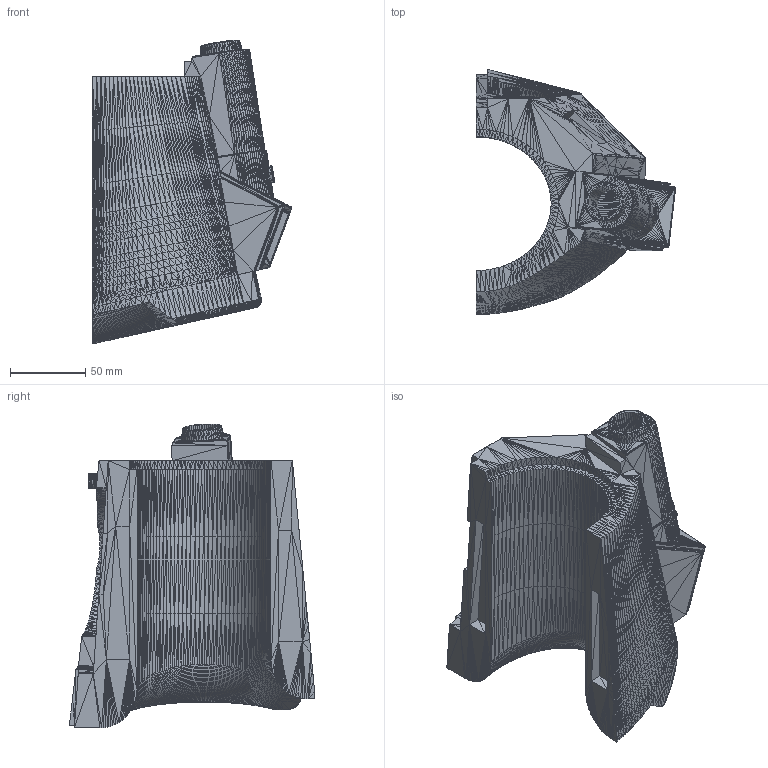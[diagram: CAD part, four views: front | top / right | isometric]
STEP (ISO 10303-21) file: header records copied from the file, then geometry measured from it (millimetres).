
FILE_DESCRIPTION((''),'2;1');
FILE_NAME('Center Back Inner', '2025-03-27T07:24:41', (''), (''), 'ImageToStl.com STEP Converter','', '');
FILE_SCHEMA(('AUTOMOTIVE_DESIGN_CC2'));
Length unit declared in the file: metre
Products named in the file (1): product0
Bounding box: 132.53 x 163.12 x 202.16 mm (x, y, z)
Surface area: 112290.3 mm2 (no closed solid volume)
Topology: 0 solids, 23630 shells, 23630 faces, 70890 edges, 11821 vertices
Faces by surface type: plane 23630
Entity records: 567167 total; most frequent: DIRECTION 118152, ORIENTED_EDGE 70890, EDGE_CURVE 70890, LINE 70890, VECTOR 70890, AXIS2_PLACEMENT_3D 23631, STYLED_ITEM 23631, FACE_SURFACE 23630
